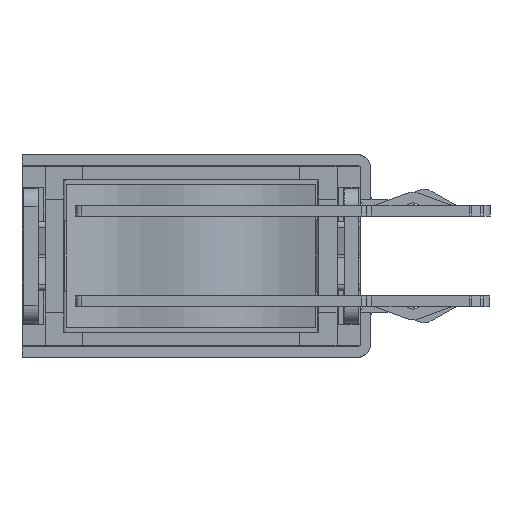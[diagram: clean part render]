
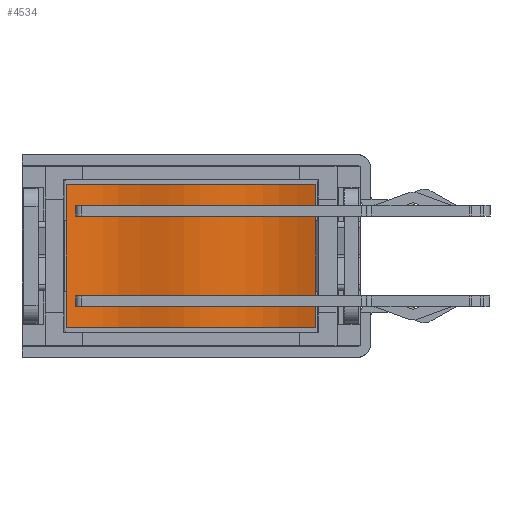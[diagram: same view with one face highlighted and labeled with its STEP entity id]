
A CAD part, front view. The second image highlights one B-rep face of the part: STEP entity #4534.
In plain terms, the highlighted free-form (B-spline) face has degree [3, 1] with [7, 2] control points.
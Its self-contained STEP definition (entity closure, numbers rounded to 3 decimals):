
#170 = EDGE_CURVE ( 'NONE', #9142, #9146, #9641, .T. ) ;
#188 = EDGE_CURVE ( 'NONE', #9122, #9142, #1224, .T. ) ;
#358 = ORIENTED_EDGE ( 'NONE', *, *, #188, .F. ) ;
#647 = ORIENTED_EDGE ( 'NONE', *, *, #6786, .T. ) ;
#753 = ORIENTED_EDGE ( 'NONE', *, *, #6732, .F. ) ;
#764 = ORIENTED_EDGE ( 'NONE', *, *, #170, .F. ) ;
#866 = B_SPLINE_SURFACE_WITH_KNOTS ( 'NONE', 3, 1, ( 
 ( #9256, #9292 ),
 ( #9270, #9457 ),
 ( #4247, #4258 ),
 ( #4354, #4327 ),
 ( #4407, #4256 ),
 ( #4398, #4413 ),
 ( #4394, #4364 ) ),
 .UNSPECIFIED., .F., .F., .F.,
 ( 4, 1, 1, 1, 4 ),
 ( 2, 2 ),
 ( 0., 0.208, 0.5, 0.807, 1. ),
 ( 0., 1. ),
 .UNSPECIFIED. ) ;
#1172 = B_SPLINE_CURVE_WITH_KNOTS ( 'NONE', 3,
 ( #16328, #16322, #16314, #16330, #16331, #16332, #16333 ),
 .UNSPECIFIED., .F., .F.,
 ( 4, 1, 1, 1, 4 ),
 ( 0., 0.001, 0.004, 0.006, 0.007 ),
 .UNSPECIFIED. ) ;
#1224 = B_SPLINE_CURVE_WITH_KNOTS ( 'NONE', 3,
 ( #3579, #3623, #3379, #3632, #3627, #3628, #3442 ),
 .UNSPECIFIED., .F., .F.,
 ( 4, 1, 1, 1, 4 ),
 ( 0., 0.001, 0.004, 0.006, 0.007 ),
 .UNSPECIFIED. ) ;
#3379 = CARTESIAN_POINT ( 'NONE',  ( 2., 0.481, -1.902 ) ) ;
#3442 = CARTESIAN_POINT ( 'NONE',  ( 2., 1., 3.5 ) ) ;
#3542 = DIRECTION ( 'NONE',  ( -1., 0., 0. ) ) ;
#3544 = CARTESIAN_POINT ( 'NONE',  ( 0., 1., 3.5 ) ) ;
#3579 = CARTESIAN_POINT ( 'NONE',  ( 2., 1., -3.5 ) ) ;
#3623 = CARTESIAN_POINT ( 'NONE',  ( 2., 0.855, -3.054 ) ) ;
#3627 = CARTESIAN_POINT ( 'NONE',  ( 2., 0.489, 1.862 ) ) ;
#3628 = CARTESIAN_POINT ( 'NONE',  ( 2., 0.85, 3.019 ) ) ;
#3632 = CARTESIAN_POINT ( 'NONE',  ( 2., 1.308, -0.032 ) ) ;
#3732 = EDGE_LOOP ( 'NONE', ( #753, #647, #764, #358 ) ) ;
#4247 = CARTESIAN_POINT ( 'NONE',  ( -2., 0.489, 1.862 ) ) ;
#4256 = CARTESIAN_POINT ( 'NONE',  ( 2., 0.481, -1.902 ) ) ;
#4258 = CARTESIAN_POINT ( 'NONE',  ( 2., 0.489, 1.862 ) ) ;
#4327 = CARTESIAN_POINT ( 'NONE',  ( 2., 1.308, -0.032 ) ) ;
#4354 = CARTESIAN_POINT ( 'NONE',  ( -2., 1.308, -0.032 ) ) ;
#4364 = CARTESIAN_POINT ( 'NONE',  ( 2., 1., -3.5 ) ) ;
#4394 = CARTESIAN_POINT ( 'NONE',  ( -2., 1., -3.5 ) ) ;
#4398 = CARTESIAN_POINT ( 'NONE',  ( -2., 0.855, -3.054 ) ) ;
#4407 = CARTESIAN_POINT ( 'NONE',  ( -2., 0.481, -1.902 ) ) ;
#4413 = CARTESIAN_POINT ( 'NONE',  ( 2., 0.855, -3.054 ) ) ;
#4534 = ADVANCED_FACE ( 'NONE', ( #11065 ), #866, .F. ) ;
#6732 = EDGE_CURVE ( 'NONE', #9133, #9122, #14094, .T. ) ;
#6786 = EDGE_CURVE ( 'NONE', #9133, #9146, #1172, .T. ) ;
#9122 = VERTEX_POINT ( 'NONE', #17716 ) ;
#9133 = VERTEX_POINT ( 'NONE', #17722 ) ;
#9142 = VERTEX_POINT ( 'NONE', #17728 ) ;
#9146 = VERTEX_POINT ( 'NONE', #17730 ) ;
#9256 = CARTESIAN_POINT ( 'NONE',  ( -2., 1., 3.5 ) ) ;
#9270 = CARTESIAN_POINT ( 'NONE',  ( -2., 0.85, 3.019 ) ) ;
#9292 = CARTESIAN_POINT ( 'NONE',  ( 2., 1., 3.5 ) ) ;
#9457 = CARTESIAN_POINT ( 'NONE',  ( 2., 0.85, 3.019 ) ) ;
#9641 = LINE ( 'NONE', #3544, #9644 ) ;
#9644 = VECTOR ( 'NONE', #3542, 1000. ) ;
#11065 = FACE_OUTER_BOUND ( 'NONE', #3732, .T. ) ;
#14094 = LINE ( 'NONE', #16123, #14100 ) ;
#14100 = VECTOR ( 'NONE', #16130, 1000. ) ;
#16123 = CARTESIAN_POINT ( 'NONE',  ( 0., 1., -3.5 ) ) ;
#16130 = DIRECTION ( 'NONE',  ( 1., 0., 0. ) ) ;
#16314 = CARTESIAN_POINT ( 'NONE',  ( -2., 0.481, -1.902 ) ) ;
#16322 = CARTESIAN_POINT ( 'NONE',  ( -2., 0.855, -3.054 ) ) ;
#16328 = CARTESIAN_POINT ( 'NONE',  ( -2., 1., -3.5 ) ) ;
#16330 = CARTESIAN_POINT ( 'NONE',  ( -2., 1.308, -0.032 ) ) ;
#16331 = CARTESIAN_POINT ( 'NONE',  ( -2., 0.489, 1.862 ) ) ;
#16332 = CARTESIAN_POINT ( 'NONE',  ( -2., 0.85, 3.019 ) ) ;
#16333 = CARTESIAN_POINT ( 'NONE',  ( -2., 1., 3.5 ) ) ;
#17716 = CARTESIAN_POINT ( 'NONE',  ( 2., 1., -3.5 ) ) ;
#17722 = CARTESIAN_POINT ( 'NONE',  ( -2., 1., -3.5 ) ) ;
#17728 = CARTESIAN_POINT ( 'NONE',  ( 2., 1., 3.5 ) ) ;
#17730 = CARTESIAN_POINT ( 'NONE',  ( -2., 1., 3.5 ) ) ;
